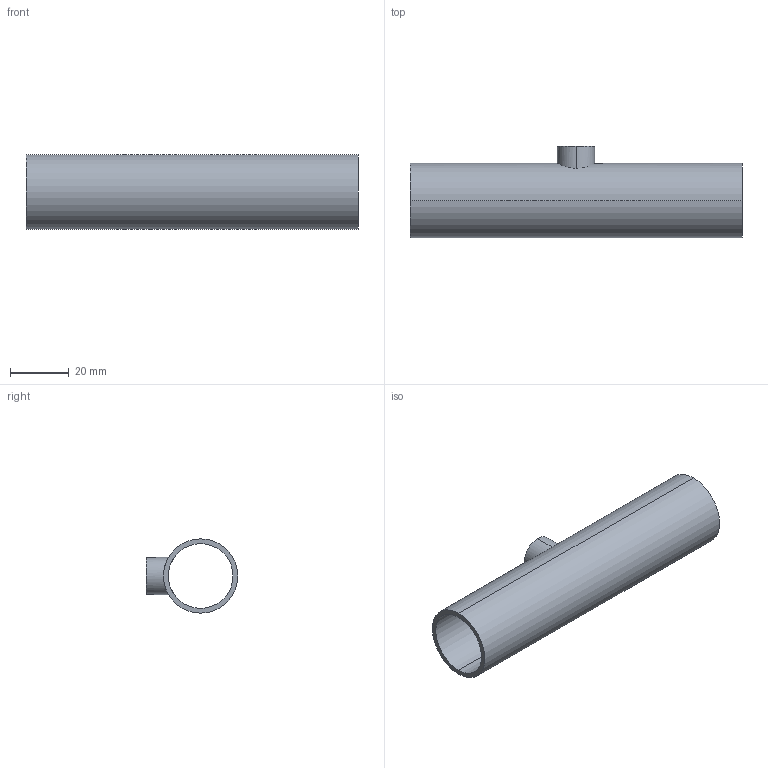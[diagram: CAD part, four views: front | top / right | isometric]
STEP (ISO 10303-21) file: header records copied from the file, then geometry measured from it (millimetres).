
FILE_DESCRIPTION (( 'STEP AP214' ), '1' );
FILE_NAME ('TEG7RS6L1.0x.5-...STEP', '2016-05-24T08:04:36', ( 'eran' ), ( '' ), 'SwSTEP 2.0', 'SolidWorks 2016', '' );
FILE_SCHEMA (( 'AUTOMOTIVE_DESIGN' ));
Length unit declared in the file: millimetre
Products named in the file (1): TEG7RS6L1.0x.5-..
Bounding box: 113.4 x 31.3 x 25.4 mm (x, y, z)
Volume: 14218.5 mm3; surface area: 17530.5 mm2
Topology: 1 solids, 1 shells, 11 faces, 24 edges, 16 vertices
Faces by surface type: cylinder 8, plane 3
Entity records: 500 total; most frequent: CARTESIAN_POINT 208, DIRECTION 56, ORIENTED_EDGE 48, AXIS2_PLACEMENT_3D 24, EDGE_CURVE 24, VERTEX_POINT 16, EDGE_LOOP 16, CIRCLE 12
